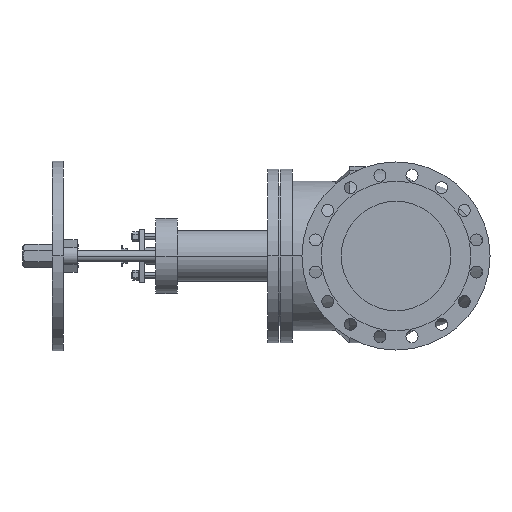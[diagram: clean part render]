
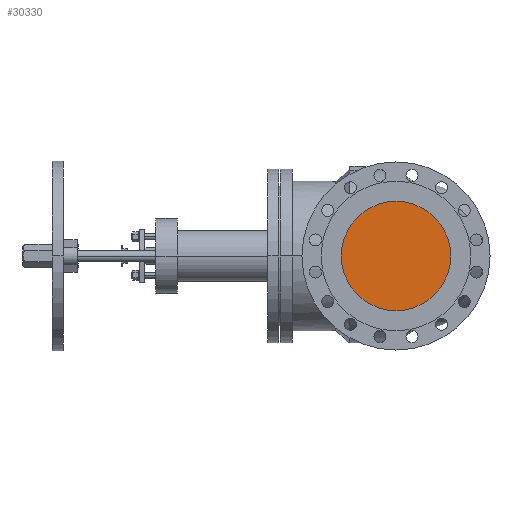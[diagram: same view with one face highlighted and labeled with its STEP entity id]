
A CAD part, left-side view. The second image highlights one B-rep face of the part: STEP entity #30330.
In plain terms, the highlighted planar face has unit normal (-1, 0, 0).
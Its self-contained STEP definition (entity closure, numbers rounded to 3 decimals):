
#19740=CARTESIAN_POINT('',(1.,-150.,0.));
#19750=VERTEX_POINT('',#19740);
#19780=CARTESIAN_POINT('',(1.,0.,0.));
#19790=DIRECTION('',(-1.,0.,0.));
#19800=DIRECTION('',(0.,1.,0.));
#19810=AXIS2_PLACEMENT_3D('',#19780,#19790,#19800);
#19820=CIRCLE('',#19810,150.);
#19830=CARTESIAN_POINT('',(1.,150.,0.));
#19840=VERTEX_POINT('',#19830);
#19850=EDGE_CURVE('',#19750,#19840,#19820,.T.);
#30230=CARTESIAN_POINT('',(1.,75.,0.));
#30240=DIRECTION('',(1.,0.,0.));
#30250=DIRECTION('',(0.,-1.,0.));
#30260=AXIS2_PLACEMENT_3D('',#30230,#30240,#30250);
#30270=PLANE('',#30260);
#30280=EDGE_CURVE('',#19840,#19750,#19820,.T.);
#30290=ORIENTED_EDGE('',*,*,#30280,.T.);
#30300=ORIENTED_EDGE('',*,*,#19850,.T.);
#30310=EDGE_LOOP('',(#30300,#30290));
#30320=FACE_OUTER_BOUND('',#30310,.T.);
#30330=ADVANCED_FACE('',(#30320),#30270,.F.);
